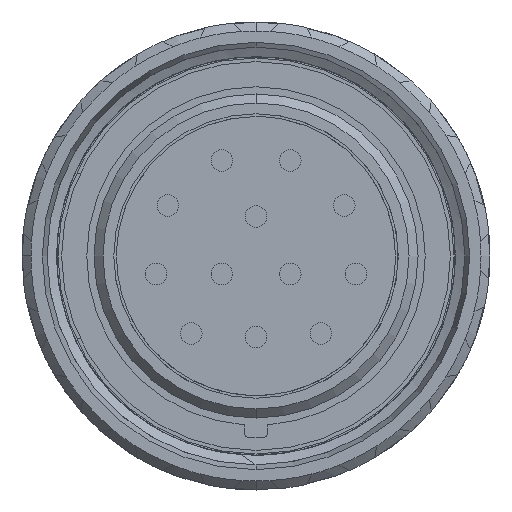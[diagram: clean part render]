
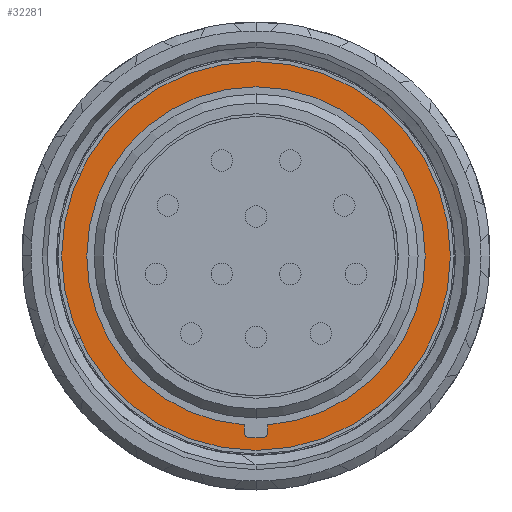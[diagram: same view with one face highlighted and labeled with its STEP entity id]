
A CAD part, left-side view. The second image highlights one B-rep face of the part: STEP entity #32281.
In plain terms, the highlighted planar face has unit normal (-1, 0, 0).
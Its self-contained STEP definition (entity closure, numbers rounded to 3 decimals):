
#515 = VERTEX_POINT ( 'NONE', #40581 ) ;
#701 = AXIS2_PLACEMENT_3D ( 'NONE', #6294, #31893, #21765 ) ;
#864 = DIRECTION ( 'NONE',  ( 0., 0., -1. ) ) ;
#969 = DIRECTION ( 'NONE',  ( 0., 0., -1. ) ) ;
#1467 = EDGE_CURVE ( 'NONE', #29768, #39052, #8576, .T. ) ;
#1475 = AXIS2_PLACEMENT_3D ( 'NONE', #26715, #39326, #11056 ) ;
#1686 = CIRCLE ( 'NONE', #24754, 10.8 ) ;
#1712 = EDGE_CURVE ( 'NONE', #25632, #29768, #27735, .T. ) ;
#2291 = ORIENTED_EDGE ( 'NONE', *, *, #6961, .T. ) ;
#3307 = DIRECTION ( 'NONE',  ( 0., 0., -1. ) ) ;
#3557 = DIRECTION ( 'NONE',  ( 1., 0., 0. ) ) ;
#3611 = EDGE_CURVE ( 'NONE', #8383, #13681, #36601, .T. ) ;
#4175 = ORIENTED_EDGE ( 'NONE', *, *, #1712, .T. ) ;
#4390 = DIRECTION ( 'NONE',  ( -1., 0., 0. ) ) ;
#4588 = ORIENTED_EDGE ( 'NONE', *, *, #1467, .T. ) ;
#5130 = PLANE ( 'NONE',  #33750 ) ;
#5773 = DIRECTION ( 'NONE',  ( 1., 0., 0. ) ) ;
#6294 = CARTESIAN_POINT ( 'NONE',  ( -3.8, -0.35, -9.794 ) ) ;
#6544 = CARTESIAN_POINT ( 'NONE',  ( -3.8, -0.361, -10.094 ) ) ;
#6653 = CIRCLE ( 'NONE', #19814, 9.4 ) ;
#6961 = EDGE_CURVE ( 'NONE', #8383, #11033, #30402, .T. ) ;
#7245 = AXIS2_PLACEMENT_3D ( 'NONE', #23589, #11021, #864 ) ;
#7646 = CARTESIAN_POINT ( 'NONE',  ( -3.8, 0.65, -9.377 ) ) ;
#7951 = CIRCLE ( 'NONE', #23865, 10.1 ) ;
#8305 = DIRECTION ( 'NONE',  ( 0., -1., 0. ) ) ;
#8383 = VERTEX_POINT ( 'NONE', #18858 ) ;
#8387 = CARTESIAN_POINT ( 'NONE',  ( -3.8, 0.65, -9.377 ) ) ;
#8389 = EDGE_CURVE ( 'NONE', #11033, #11665, #7951, .T. ) ;
#8576 = CIRCLE ( 'NONE', #7245, 10.8 ) ;
#8588 = CARTESIAN_POINT ( 'NONE',  ( -3.8, 0.65, -9.794 ) ) ;
#8875 = ORIENTED_EDGE ( 'NONE', *, *, #8389, .T. ) ;
#9118 = CARTESIAN_POINT ( 'NONE',  ( -3.8, -0.65, -9.794 ) ) ;
#9300 = EDGE_LOOP ( 'NONE', ( #4175, #4588, #18014 ) ) ;
#9318 = CARTESIAN_POINT ( 'NONE',  ( -3.8, -0.65, -9.377 ) ) ;
#9915 = ORIENTED_EDGE ( 'NONE', *, *, #24860, .F. ) ;
#10352 = VERTEX_POINT ( 'NONE', #33256 ) ;
#11021 = DIRECTION ( 'NONE',  ( -1., 0., 0. ) ) ;
#11033 = VERTEX_POINT ( 'NONE', #6544 ) ;
#11056 = DIRECTION ( 'NONE',  ( 0., 1., 0. ) ) ;
#11184 = EDGE_CURVE ( 'NONE', #22303, #28229, #30817, .T. ) ;
#11518 = DIRECTION ( 'NONE',  ( 0., -0.069, -0.998 ) ) ;
#11665 = VERTEX_POINT ( 'NONE', #16330 ) ;
#12222 = CARTESIAN_POINT ( 'NONE',  ( -3.8, 10.8, 0. ) ) ;
#12228 = DIRECTION ( 'NONE',  ( -1., 0., 0. ) ) ;
#12359 = EDGE_CURVE ( 'NONE', #515, #22303, #16684, .T. ) ;
#13681 = VERTEX_POINT ( 'NONE', #33179 ) ;
#14651 = EDGE_CURVE ( 'NONE', #11665, #28229, #30544, .T. ) ;
#15055 = FACE_BOUND ( 'NONE', #16641, .T. ) ;
#16330 = CARTESIAN_POINT ( 'NONE',  ( -3.8, 0.361, -10.094 ) ) ;
#16485 = CIRCLE ( 'NONE', #40856, 9.4 ) ;
#16641 = EDGE_LOOP ( 'NONE', ( #8875, #38240, #18063, #26998, #38620, #9915, #20834, #2291 ) ) ;
#16684 = CIRCLE ( 'NONE', #1475, 9.4 ) ;
#17109 = CARTESIAN_POINT ( 'NONE',  ( -3.8, 0., 0. ) ) ;
#18014 = ORIENTED_EDGE ( 'NONE', *, *, #19169, .T. ) ;
#18063 = ORIENTED_EDGE ( 'NONE', *, *, #11184, .F. ) ;
#18858 = CARTESIAN_POINT ( 'NONE',  ( -3.8, -0.65, -9.794 ) ) ;
#19055 = CARTESIAN_POINT ( 'NONE',  ( -3.8, 0., 0. ) ) ;
#19169 = EDGE_CURVE ( 'NONE', #39052, #25632, #1686, .T. ) ;
#19814 = AXIS2_PLACEMENT_3D ( 'NONE', #40746, #28145, #11518 ) ;
#19839 = AXIS2_PLACEMENT_3D ( 'NONE', #34495, #12228, #3307 ) ;
#20289 = CARTESIAN_POINT ( 'NONE',  ( -3.8, 0., 0. ) ) ;
#20834 = ORIENTED_EDGE ( 'NONE', *, *, #3611, .F. ) ;
#21460 = CARTESIAN_POINT ( 'NONE',  ( -3.8, 0.35, -9.794 ) ) ;
#21765 = DIRECTION ( 'NONE',  ( 0., 0., -1. ) ) ;
#22303 = VERTEX_POINT ( 'NONE', #7646 ) ;
#23295 = AXIS2_PLACEMENT_3D ( 'NONE', #21460, #5773, #28049 ) ;
#23589 = CARTESIAN_POINT ( 'NONE',  ( -3.8, 0., 0. ) ) ;
#23799 = EDGE_CURVE ( 'NONE', #10352, #515, #16485, .T. ) ;
#23863 = CARTESIAN_POINT ( 'NONE',  ( -3.8, 0., -10.8 ) ) ;
#23865 = AXIS2_PLACEMENT_3D ( 'NONE', #19055, #3557, #28320 ) ;
#24716 = FACE_OUTER_BOUND ( 'NONE', #9300, .T. ) ;
#24754 = AXIS2_PLACEMENT_3D ( 'NONE', #17109, #36096, #969 ) ;
#24860 = EDGE_CURVE ( 'NONE', #13681, #10352, #6653, .T. ) ;
#25356 = CARTESIAN_POINT ( 'NONE',  ( -3.8, -10.8, 0. ) ) ;
#25632 = VERTEX_POINT ( 'NONE', #25356 ) ;
#26715 = CARTESIAN_POINT ( 'NONE',  ( -3.8, 0., 0. ) ) ;
#26998 = ORIENTED_EDGE ( 'NONE', *, *, #12359, .F. ) ;
#27614 = CARTESIAN_POINT ( 'NONE',  ( -3.8, 11.232, 11.232 ) ) ;
#27735 = CIRCLE ( 'NONE', #19839, 10.8 ) ;
#28049 = DIRECTION ( 'NONE',  ( 0., 0., -1. ) ) ;
#28145 = DIRECTION ( 'NONE',  ( -1., 0., 0. ) ) ;
#28229 = VERTEX_POINT ( 'NONE', #35222 ) ;
#28320 = DIRECTION ( 'NONE',  ( 0., 0., -1. ) ) ;
#29768 = VERTEX_POINT ( 'NONE', #12222 ) ;
#30402 = CIRCLE ( 'NONE', #701, 0.3 ) ;
#30544 = CIRCLE ( 'NONE', #23295, 0.3 ) ;
#30817 = B_SPLINE_CURVE_WITH_KNOTS ( 'NONE', 1,
 ( #8387, #8588 ),
 .UNSPECIFIED., .F., .F.,
 ( 2, 2 ),
 ( 0., 0. ),
 .UNSPECIFIED. ) ;
#31893 = DIRECTION ( 'NONE',  ( 1., 0., 0. ) ) ;
#32281 = ADVANCED_FACE ( 'NONE', ( #15055, #24716 ), #5130, .F. ) ;
#33179 = CARTESIAN_POINT ( 'NONE',  ( -3.8, -0.65, -9.377 ) ) ;
#33256 = CARTESIAN_POINT ( 'NONE',  ( -3.8, -9.4, 0. ) ) ;
#33408 = DIRECTION ( 'NONE',  ( 0., -1., 0. ) ) ;
#33750 = AXIS2_PLACEMENT_3D ( 'NONE', #27614, #40215, #33408 ) ;
#34495 = CARTESIAN_POINT ( 'NONE',  ( -3.8, 0., 0. ) ) ;
#35222 = CARTESIAN_POINT ( 'NONE',  ( -3.8, 0.65, -9.794 ) ) ;
#36096 = DIRECTION ( 'NONE',  ( -1., 0., 0. ) ) ;
#36601 = B_SPLINE_CURVE_WITH_KNOTS ( 'NONE', 1,
 ( #9118, #9318 ),
 .UNSPECIFIED., .F., .F.,
 ( 2, 2 ),
 ( 0., 0. ),
 .UNSPECIFIED. ) ;
#38240 = ORIENTED_EDGE ( 'NONE', *, *, #14651, .T. ) ;
#38620 = ORIENTED_EDGE ( 'NONE', *, *, #23799, .F. ) ;
#39052 = VERTEX_POINT ( 'NONE', #23863 ) ;
#39326 = DIRECTION ( 'NONE',  ( -1., 0., 0. ) ) ;
#40215 = DIRECTION ( 'NONE',  ( 1., 0., 0. ) ) ;
#40581 = CARTESIAN_POINT ( 'NONE',  ( -3.8, 9.4, 0. ) ) ;
#40746 = CARTESIAN_POINT ( 'NONE',  ( -3.8, 0., 0. ) ) ;
#40856 = AXIS2_PLACEMENT_3D ( 'NONE', #20289, #4390, #8305 ) ;
